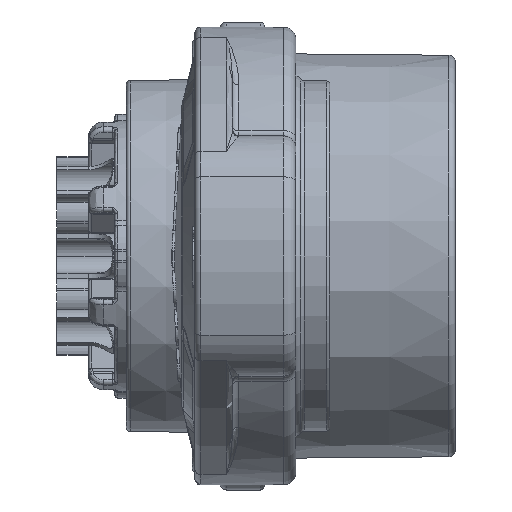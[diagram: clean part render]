
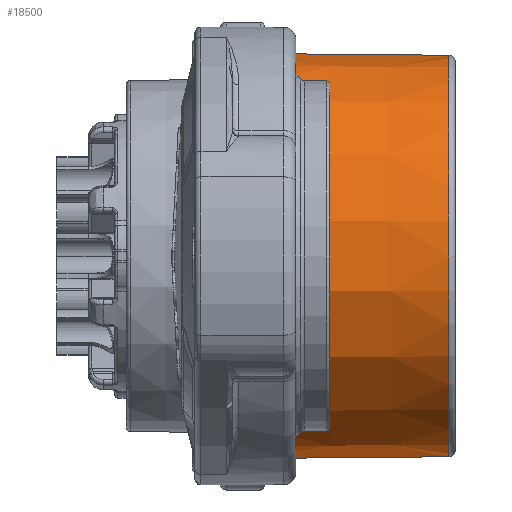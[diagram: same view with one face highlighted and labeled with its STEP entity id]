
A CAD part, front view. The second image highlights one B-rep face of the part: STEP entity #18500.
In plain terms, the highlighted conical face has half-angle 0.5 degrees and reference radius 16 mm.
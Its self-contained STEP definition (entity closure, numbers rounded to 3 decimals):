
#755 = ORIENTED_EDGE ( 'NONE', *, *, #87903, .F. ) ;
#5500 = CARTESIAN_POINT ( 'NONE',  ( -15.1, 0., -16. ) ) ;
#5545 = ORIENTED_EDGE ( 'NONE', *, *, #80455, .T. ) ;
#7167 = CARTESIAN_POINT ( 'NONE',  ( -14.604, 0., 15.996 ) ) ;
#8407 = AXIS2_PLACEMENT_3D ( 'NONE', #42517, #51601, #59265 ) ;
#8722 = CARTESIAN_POINT ( 'NONE',  ( -0.496, 0., -15.873 ) ) ;
#9564 = CIRCLE ( 'NONE', #50880, 15.873 ) ;
#11916 = DIRECTION ( 'NONE',  ( -1., 0., 0. ) ) ;
#17665 = CIRCLE ( 'NONE', #8407, 15.996 ) ;
#18500 = ADVANCED_FACE ( 'NONE', ( #71783 ), #77693, .T. ) ;
#18602 = DIRECTION ( 'NONE',  ( -1., 0., 0. ) ) ;
#20070 = CARTESIAN_POINT ( 'NONE',  ( -15.1, 0., 0. ) ) ;
#20368 = DIRECTION ( 'NONE',  ( -1., 0., -0.009 ) ) ;
#21612 = DIRECTION ( 'NONE',  ( -1., 0., 0.009 ) ) ;
#22002 = VERTEX_POINT ( 'NONE', #7167 ) ;
#27304 = CARTESIAN_POINT ( 'NONE',  ( -0.496, 0., 15.873 ) ) ;
#30800 = VECTOR ( 'NONE', #20368, 1000. ) ;
#39438 = AXIS2_PLACEMENT_3D ( 'NONE', #20070, #11916, #63672 ) ;
#42347 = VERTEX_POINT ( 'NONE', #8722 ) ;
#42517 = CARTESIAN_POINT ( 'NONE',  ( -14.604, 0., 0. ) ) ;
#44661 = CARTESIAN_POINT ( 'NONE',  ( -14.604, 0., -15.996 ) ) ;
#47091 = ORIENTED_EDGE ( 'NONE', *, *, #94508, .T. ) ;
#48198 = LINE ( 'NONE', #5500, #30800 ) ;
#48742 = DIRECTION ( 'NONE',  ( 0., 0., -1. ) ) ;
#50880 = AXIS2_PLACEMENT_3D ( 'NONE', #91866, #18602, #48742 ) ;
#51601 = DIRECTION ( 'NONE',  ( 1., 0., 0. ) ) ;
#52263 = CARTESIAN_POINT ( 'NONE',  ( -15.1, 0., 16. ) ) ;
#54664 = EDGE_LOOP ( 'NONE', ( #93131, #5545, #47091, #755 ) ) ;
#58022 = LINE ( 'NONE', #52263, #91323 ) ;
#59265 = DIRECTION ( 'NONE',  ( 0., 0., 1. ) ) ;
#63672 = DIRECTION ( 'NONE',  ( 0., 0., -1. ) ) ;
#69970 = VERTEX_POINT ( 'NONE', #27304 ) ;
#71783 = FACE_OUTER_BOUND ( 'NONE', #54664, .T. ) ;
#72130 = EDGE_CURVE ( 'NONE', #42347, #69970, #9564, .T. ) ;
#77693 = CONICAL_SURFACE ( 'NONE', #39438, 16., 0.009 ) ;
#77902 = VERTEX_POINT ( 'NONE', #44661 ) ;
#80455 = EDGE_CURVE ( 'NONE', #69970, #22002, #58022, .T. ) ;
#87903 = EDGE_CURVE ( 'NONE', #42347, #77902, #48198, .T. ) ;
#91323 = VECTOR ( 'NONE', #21612, 1000. ) ;
#91866 = CARTESIAN_POINT ( 'NONE',  ( -0.496, 0., 0. ) ) ;
#93131 = ORIENTED_EDGE ( 'NONE', *, *, #72130, .T. ) ;
#94508 = EDGE_CURVE ( 'NONE', #22002, #77902, #17665, .T. ) ;
